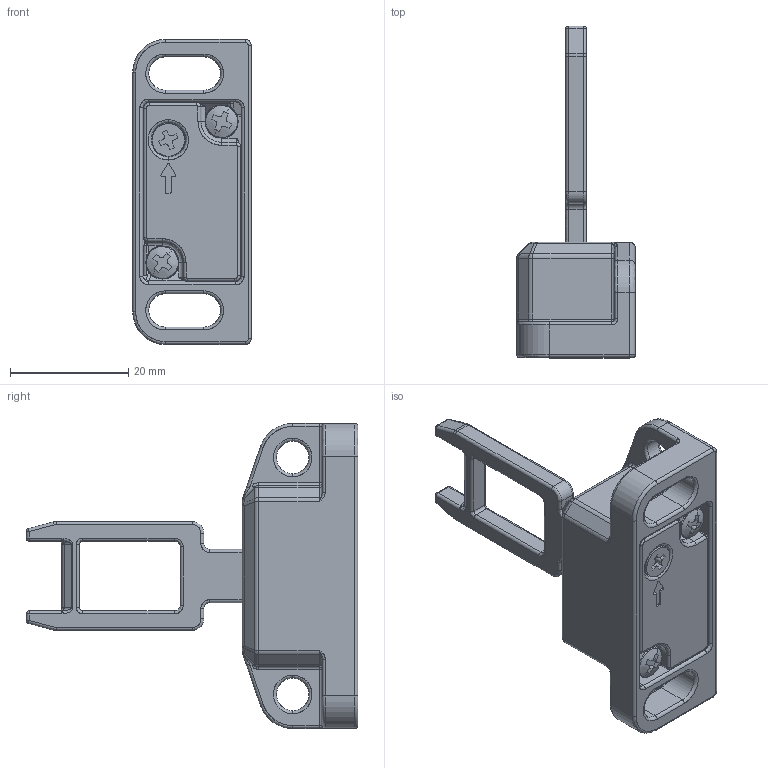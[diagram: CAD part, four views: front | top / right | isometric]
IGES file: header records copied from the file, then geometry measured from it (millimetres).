
Start section: SolidWorks IGES file using analytic representation for surfaces
Global section: file name: Q:\GROUPS\WAU_SBC_ITEC\ENGENHARIA\FERRAMENTARIA\EM ANDAMENTO - DESENHOS CHAVES - LEANDRO\ACIS-...HL\ACIS-...HL.IGS; native system: SolidWorks 2015; preprocessor: SolidWorks 2015; author: silval; date: 151027.170915; units: millimetre
Bounding box: 20 x 56 x 51.5 mm (x, y, z)
Surface area: 7038.8 mm2 (no closed solid volume)
Topology: 0 solids, 0 shells, 448 faces, 2757 edges, 2744 vertices
Faces by surface type: bspline 250, revolution 198
